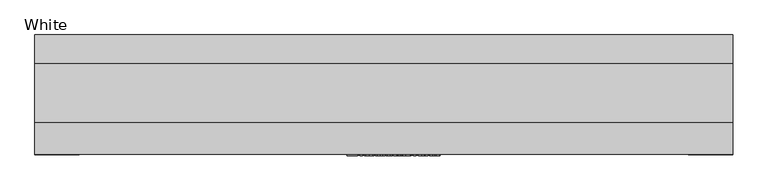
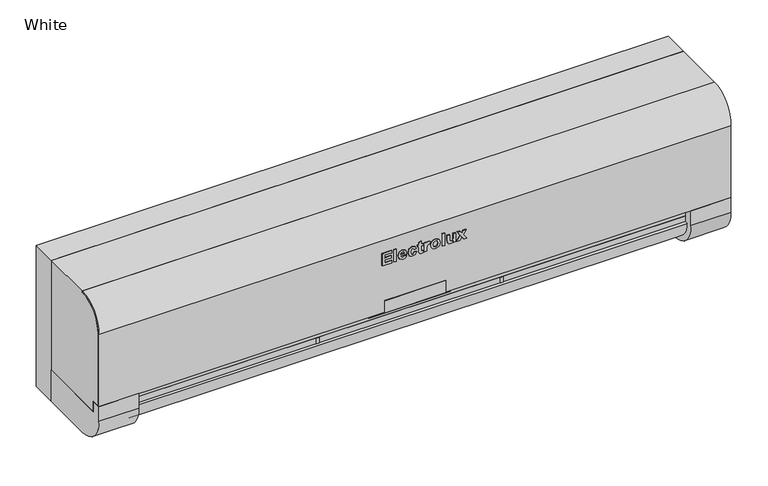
"""IFC4 building model written with IfcOpenShell, lengths in millimetres: proxy geometry, Кондиционер_world_of_REVIT : White."""

from ifc_helpers import new_model, si_unit, point, frame, frame_2d, origin, place, context, project, spatial, polyline, circle_curve, trimmed, segment, composite_curve, outline, extrude, source, transform, mapped, element, save
from ifc_brep_helpers import plane_surface, cylinder_surface, advanced_brep


def white_0b40f84a(model_context):
    return source(origin(), model_context, "Body", "SolidModel", [
        extrude(outline(composite_curve([segment(polyline([(-156.1791575, 2242.9342407), (-156.1791575, 2252.456132), (-82.9717547, 2252.456132), (-82.9717547, 2206.7187838), (-124.6196044, 2206.7187838)]), True, "CONTINUOUS"), segment(trimmed(circle_curve(frame_2d((-124.6196044, 2242.9342407)), 36.2154568), [point((-124.6196044, 2206.7187838))], [point((-160.8350613, 2242.9342407))], False, "CARTESIAN"), True, "CONTINUOUS"), segment(polyline([(-160.8350613, 2242.9342407), (-156.1791575, 2242.9342407)]), True, "CONTINUOUS")], self_intersect=False)), frame((-436.7383279, 0.0, 0.0), z_axis=(1.0, 0.0, 0.0), x_axis=(0.0, 1.0, 0.0)), (0.0, 0.0, 1.0), 873.4766558),
        extrude(outline(composite_curve([segment(polyline([(-171.2689312, 2245.269321), (-171.2689312, 2270.0153894), (-156.1791575, 2270.0153894), (-156.1791575, 2252.456132), (-40.7423889, 2252.456132), (-40.7423889, 2200.0), (-125.9996102, 2200.0)]), True, "CONTINUOUS"), segment(trimmed(circle_curve(frame_2d((-125.9996102, 2245.269321)), 45.269321), [point((-125.9996102, 2200.0))], [point((-171.2689312, 2245.269321))], False, "CARTESIAN"), True, "CONTINUOUS")], self_intersect=False)), frame((-499.9999955, 0.0, 0.0), z_axis=(1.0, 0.0, 0.0), x_axis=(0.0, 1.0, 0.0)), (0.0, 0.0, 1.0), 63.2616676),
        extrude(outline(composite_curve([segment(polyline([(-171.2689312, 2245.269321), (-171.2689312, 2270.0153894), (-156.1791575, 2270.0153894), (-156.1791575, 2252.456132), (-40.7423889, 2252.456132), (-40.7423889, 2200.0), (-125.9996102, 2200.0)]), True, "CONTINUOUS"), segment(trimmed(circle_curve(frame_2d((-125.9996102, 2245.269321)), 45.269321), [point((-125.9996102, 2200.0))], [point((-171.2689312, 2245.269321))], False, "CARTESIAN"), True, "CONTINUOUS")], self_intersect=False)), frame((436.7383279, 0.0, 0.0), z_axis=(1.0, 0.0, 0.0), x_axis=(0.0, 1.0, 0.0)), (0.0, 0.0, 1.0), 63.2616766),
        extrude(outline(composite_curve([segment(polyline([(-169.0054652, 2390.885637), (-169.0054652, 2270.0153894), (-171.2689312, 2270.0153894), (-171.2689312, 2390.885637)]), True, "CONTINUOUS"), segment(trimmed(circle_curve(frame_2d((-125.9996102, 2390.885637)), 45.269321), [point((-171.2689312, 2390.885637))], [point((-125.9996102, 2436.154958))], False, "CARTESIAN"), True, "CONTINUOUS"), segment(polyline([(-125.9996102, 2436.154958), (-125.9996102, 2433.891492)]), True, "CONTINUOUS"), segment(trimmed(circle_curve(frame_2d((-125.9996102, 2390.885637)), 43.005855), [point((-125.9996102, 2433.891492))], [point((-169.0054652, 2390.885637))], True, "CARTESIAN"), True, "CONTINUOUS")], self_intersect=False)), frame((-499.9999955, 0.0, 0.0), z_axis=(1.0, 0.0, 0.0), x_axis=(0.0, 1.0, 0.0)), (0.0, 0.0, 1.0), 1000.0),
        extrude(outline(polyline([(500.0000045, 0.0), (500.0000045, -40.7423889), (-499.9999955, -40.7423889), (-499.9999955, 0.0), (500.0000045, 0.0)])), frame((0.0, 0.0, 2200.0), z_axis=(0.0, 0.0, 1.0), x_axis=(1.0, 0.0, 0.0)), (0.0, 0.0, 1.0), 236.154958),
        extrude(outline(composite_curve([segment(trimmed(circle_curve(frame_2d((2262.1627686, 101.5576903)), 3.5), [point((2262.1627686, 98.0576903))], [point((2262.1627686, 105.0576903))], False, "CARTESIAN"), True, "CONTINUOUS"), segment(trimmed(circle_curve(frame_2d((2262.1627686, 101.5576903)), 3.5), [point((2262.1627686, 105.0576903))], [point((2262.1627686, 98.0576903))], False, "CARTESIAN"), True, "CONTINUOUS")], self_intersect=False)), frame((0.0, -156.9791575, 0.0), z_axis=(0.0, 1.0, 0.0), x_axis=(0.0, 0.0, 1.0)), (0.0, 0.0, 1.0), 0.8),
        extrude(outline(polyline([(-143.3159738, -156.9791575), (-147.8429114, -156.9791575), (-147.8429114, -156.1791575), (-143.3159738, -156.1791575), (-143.3159738, -156.9791575)])), frame((0.0, 0.0, 2242.9342407), z_axis=(0.0, 0.0, 1.0), x_axis=(1.0, 0.0, 0.0)), (0.0, 0.0, 1.0), 9.5218913),
        extrude(outline(polyline([(147.8429114, -156.9791575), (143.3159738, -156.9791575), (143.3159738, -156.1791575), (147.8429114, -156.1791575), (147.8429114, -156.9791575)])), frame((0.0, 0.0, 2242.9342407), z_axis=(0.0, 0.0, 1.0), x_axis=(1.0, 0.0, 0.0)), (0.0, 0.0, 1.0), 9.5218913),
        advanced_brep(
        [(500.0000045, -156.1791575, 2252.456132), (500.0000045, -40.7423889, 2252.456132), (500.0000045, -40.7423889, 2436.154958), (500.0000045, -125.9996102, 2436.154958), (500.0000045, -125.9996102, 2433.891492), (500.0000045, -169.0054652, 2390.885637), (500.0000045, -169.0054652, 2270.0153894), (500.0000045, -156.1791575, 2270.0153894), (-499.9999955, -156.1791575, 2252.456132), (-499.9999955, -156.1791575, 2270.0153894), (-499.9999955, -169.0054652, 2270.0153894), (-499.9999955, -169.0054652, 2390.885637), (-499.9999955, -125.9996102, 2433.891492), (-499.9999955, -125.9996102, 2436.154958), (-499.9999955, -40.7423889, 2436.154958), (-499.9999955, -40.7423889, 2252.456132), (-64.6063165, -156.1791575, 2268.0361982), (64.6063165, -156.1791575, 2268.0361982), (64.6063165, -156.1791575, 2256.2285754), (-64.6063165, -156.1791575, 2256.2285754), (64.6063165, -153.9156915, 2268.0361982), (-64.6063165, -153.9156915, 2268.0361982), (-64.6063165, -153.9156915, 2256.2285754), (64.6063165, -153.9156915, 2256.2285754)],
        [
            (0, 1),
            (1, 2),
            (2, 3),
            (3, 4),
            (4, 5, circle_curve(frame((500.0000045, -125.9996102, 2390.885637), z_axis=(1.0, 0.0, 0.0), x_axis=(0.0, 1.0, 0.0)), 43.005855)),
            (5, 6),
            (6, 7),
            (7, 0),
            (8, 9),
            (9, 10),
            (10, 11),
            (11, 12, circle_curve(frame((-499.9999955, -125.9996102, 2390.885637), z_axis=(-1.0, 0.0, 0.0), x_axis=(0.0, 1.0, 0.0)), 43.005855)),
            (12, 13),
            (13, 14),
            (14, 15),
            (15, 8),
            (0, 8),
            (15, 1),
            (14, 2),
            (13, 3),
            (12, 4),
            (11, 5),
            (10, 6),
            (9, 7),
            (16, 17),
            (17, 18),
            (18, 19),
            (19, 16),
            (20, 21),
            (21, 22),
            (22, 23),
            (23, 20),
            (20, 17),
            (16, 21),
            (19, 22),
            (18, 23),
        ],
        [
            plane_surface(frame((500.0000045, -40.7423889, 2252.456132), z_axis=(1.0, 0.0, 0.0), x_axis=(0.0, 1.0, 0.0))),
            plane_surface(frame((-499.9999955, -40.7423889, 2252.456132), z_axis=(-1.0, 0.0, 0.0), x_axis=(0.0, -1.0, 0.0))),
            plane_surface(frame((500.0000045, -156.1791575, 2252.456132), z_axis=(0.0, 0.0, -1.0), x_axis=(-1.0, 0.0, 0.0))),
            plane_surface(frame((500.0000045, -40.7423889, 2252.456132), z_axis=(0.0, 1.0, 0.0), x_axis=(-1.0, 0.0, 0.0))),
            plane_surface(frame((500.0000045, -40.7423889, 2436.154958), z_axis=(0.0, 0.0, 1.0), x_axis=(-1.0, 0.0, 0.0))),
            plane_surface(frame((500.0000045, -125.9996102, 2436.154958), z_axis=(0.0, -1.0, 0.0), x_axis=(-1.0, 0.0, 0.0))),
            cylinder_surface(frame((-499.9999955, -125.9996102, 2390.885637), z_axis=(1.0, 0.0, 0.0), x_axis=(0.0, 1.0, 0.0)), 43.005855),
            plane_surface(frame((500.0000045, -169.0054652, 2390.885637), z_axis=(0.0, -1.0, 0.0), x_axis=(-1.0, 0.0, 0.0))),
            plane_surface(frame((500.0000045, -169.0054652, 2270.0153894), z_axis=(0.0, 0.0, -1.0), x_axis=(-1.0, 0.0, 0.0))),
            plane_surface(frame((500.0000045, -156.1791575, 2270.0153894), z_axis=(0.0, -1.0, 0.0), x_axis=(-1.0, 0.0, 0.0))),
            plane_surface(frame((-64.6063165, -153.9156915, 2268.0361982), z_axis=(0.0, -1.0, 0.0), x_axis=(1.0, 0.0, 0.0))),
            plane_surface(frame((64.6063165, -156.1791575, 2268.0361982), z_axis=(0.0, 0.0, -1.0), x_axis=(0.0, 1.0, 0.0))),
            plane_surface(frame((-64.6063165, -156.1791575, 2268.0361982), z_axis=(1.0, 0.0, 0.0), x_axis=(0.0, 1.0, 0.0))),
            plane_surface(frame((-64.6063165, -156.1791575, 2256.2285754), z_axis=(0.0, 0.0, 1.0), x_axis=(0.0, 1.0, 0.0))),
            plane_surface(frame((64.6063165, -156.1791575, 2256.2285754), z_axis=(-1.0, 0.0, 0.0), x_axis=(0.0, 1.0, 0.0))),
        ],
        [
            (0, [[1, 2, 3, 4, 5, 6, 7, 8]]),
            (1, [[9, 10, 11, 12, 13, 14, 15, 16]]),
            (2, [[-1, 17, -16, 18]]),
            (3, [[-2, -18, -15, 19]]),
            (4, [[-3, -19, -14, 20]]),
            (5, [[-4, -20, -13, 21]]),
            (6, [[-5, -21, -12, 22]]),
            (7, [[-6, -22, -11, 23]]),
            (8, [[-7, -23, -10, 24]]),
            (9, [[-8, -24, -9, -17], [25, 26, 27, 28]]),
            (10, [[29, 30, 31, 32]]),
            (11, [[-29, 33, -25, 34]]),
            (12, [[-30, -34, -28, 35]]),
            (13, [[-31, -35, -27, 36]]),
            (14, [[-32, -36, -26, -33]]),
        ],
    ),
        extrude(outline(polyline([(2350.0916208, -52.923932), (2350.0916208, -37.3771221), (2353.6544314, -37.3771221), (2353.6544314, -49.0372296), (2358.8367014, -49.0372296), (2358.8367014, -38.3487978), (2362.399512, -38.3487978), (2362.399512, -49.0372296), (2366.9339982, -49.0372296), (2366.9339982, -37.701014), (2370.4968088, -37.701014), (2370.4968088, -52.923932), (2350.0916208, -52.923932)])), frame((0.0, -172.8689312, 0.0), z_axis=(0.0, 1.0, 0.0), x_axis=(0.0, 0.0, 1.0)), (0.0, 0.0, 1.0), 1.6),
        extrude(outline(polyline([(-30.2515009, -172.8689312), (-34.1382034, -172.8689312), (-34.1382034, -171.2689312), (-30.2515009, -171.2689312), (-30.2515009, -172.8689312)])), frame((0.0, 0.0, 2350.0916208), z_axis=(0.0, 0.0, 1.0), x_axis=(1.0, 0.0, 0.0)), (0.0, 0.0, 1.0), 20.405188),
        extrude(outline(polyline([(2354.6261071, -17.9436098), (2352.6827558, -20.3525556), (2353.7050395, -22.5337649), (2356.5694583, -23.4497716), (2356.5694583, -13.7330154), (2363.1636944, -15.5296031), (2365.3145389, -20.6562042), (2363.2193633, -25.4437309), (2357.4297961, -27.3364741), (2352.303195, -25.9093255), (2349.767729, -20.3373731), (2350.8431512, -16.3747585), (2353.9783233, -14.0569073), (2354.6261071, -17.9436098)]), holes=[polyline([(2358.8367014, -17.6197179), (2358.8367014, -23.3839811), (2361.4430188, -22.5742514), (2362.399512, -20.4891975), (2361.4910965, -18.4851165), (2358.8367014, -17.6197179)])]), frame((0.0, -172.8689312, 0.0), z_axis=(0.0, 1.0, 0.0), x_axis=(0.0, 0.0, 1.0)), (0.0, 0.0, 1.0), 1.6),
        extrude(outline(polyline([(2360.7800527, 1.4899026), (2364.1935693, -0.7216716), (2365.3145389, -4.8664754), (2363.2623802, -9.9222251), (2357.5259515, -11.7896642), (2351.8274788, -9.9095731), (2349.767729, -4.8664754), (2351.0759485, -0.4256142), (2354.9499989, 1.8137945), (2355.5977827, -2.072908), (2353.3381308, -3.0319316), (2352.6827558, -4.7804416), (2353.8315598, -7.0552759), (2357.7638096, -7.9029617), (2361.331681, -7.0881712), (2362.399512, -4.9019011), (2361.8301708, -3.2242424), (2360.1322689, -2.3967999), (2360.7800527, 1.4899026)])), frame((0.0, -172.8689312, 0.0), z_axis=(0.0, 1.0, 0.0), x_axis=(0.0, 0.0, 1.0)), (0.0, 0.0, 1.0), 1.6),
        extrude(outline(polyline([(2364.990647, 11.8544426), (2364.990647, 8.9394157), (2370.172917, 8.9394157), (2367.9056739, 5.0527132), (2364.990647, 5.0527132), (2364.990647, 3.109362), (2362.0756201, 3.109362), (2362.0756201, 5.0527132), (2355.4662016, 5.0527132), (2352.6372085, 5.1792335), (2351.0734181, 5.7485747), (2350.1321073, 7.0314901), (2349.767729, 8.9950846), (2350.2940533, 12.1783344), (2353.0572558, 12.0163885), (2353.4241646, 9.0279799), (2355.6838165, 8.9394157), (2362.0756201, 8.9394157), (2362.0756201, 11.8544426), (2364.990647, 11.8544426)])), frame((0.0, -172.8689312, 0.0), z_axis=(0.0, 1.0, 0.0), x_axis=(0.0, 0.0, 1.0)), (0.0, 0.0, 1.0), 1.6),
        extrude(outline(polyline([(2350.0916208, 18.0083881), (2354.5501949, 18.0083881), (2359.3883298, 18.3297496), (2361.4278364, 20.5792799), (2360.7952351, 22.3809284), (2364.4946876, 23.51455), (2365.3145389, 21.1309082), (2364.8514747, 19.562057), (2362.9157147, 18.0083881), (2364.990647, 18.0083881), (2364.990647, 14.1216857), (2350.0916208, 14.1216857), (2350.0916208, 18.0083881)])), frame((0.0, -172.8689312, 0.0), z_axis=(0.0, 1.0, 0.0), x_axis=(0.0, 0.0, 1.0)), (0.0, 0.0, 1.0), 1.6),
        extrude(outline(polyline([(2357.753688, 24.1623337), (2353.4013909, 25.1213573), (2350.6913269, 27.9199855), (2349.767729, 31.7889752), (2351.9868944, 37.2242857), (2357.5816204, 39.3852518), (2363.1232079, 37.2470593), (2365.3145389, 31.7586103), (2364.3479241, 27.8364822), (2361.5467654, 25.1213573), (2357.753688, 24.1623337)]), holes=[polyline([(2357.5411339, 28.0490362), (2361.1469614, 29.1244584), (2362.399512, 31.7788536), (2361.1469614, 34.4281879), (2357.5714988, 35.4985493), (2353.9353064, 34.4281879), (2352.6827558, 31.7788536), (2353.9353064, 29.1244584), (2357.5411339, 28.0490362)])]), frame((0.0, -172.8689312, 0.0), z_axis=(0.0, 1.0, 0.0), x_axis=(0.0, 0.0, 1.0)), (0.0, 0.0, 1.0), 1.6),
        extrude(outline(polyline([(46.1869811, -172.8689312), (42.3002786, -172.8689312), (42.3002786, -171.2689312), (46.1869811, -171.2689312), (46.1869811, -172.8689312)])), frame((0.0, 0.0, 2350.0916208), z_axis=(0.0, 0.0, 1.0), x_axis=(1.0, 0.0, 0.0)), (0.0, 0.0, 1.0), 20.405188),
        extrude(outline(polyline([(2350.0916208, 59.4665479), (2350.0916208, 63.3532504), (2364.990647, 63.3532504), (2364.990647, 59.4665479), (2358.6696947, 59.4665479), (2354.6235767, 59.1806121), (2353.239445, 58.1178419), (2354.2288334, 54.1704097), (2358.1028839, 53.960386), (2364.990647, 53.960386), (2364.990647, 50.0736836), (2355.5724786, 50.0736836), (2352.2753606, 50.5797646), (2350.4256343, 52.2194672), (2349.767729, 54.7751765), (2350.4382864, 57.4346325), (2352.277891, 59.4665479), (2350.0916208, 59.4665479)])), frame((0.0, -172.8689312, 0.0), z_axis=(0.0, 1.0, 0.0), x_axis=(0.0, 0.0, 1.0)), (0.0, 0.0, 1.0), 1.6),
        extrude(outline(polyline([(2350.0916208, 65.4585475), (2350.0916208, 70.0790675), (2354.70708, 72.9738511), (2350.0916208, 76.0609456), (2350.0916208, 80.6814656), (2357.9358771, 75.2815807), (2364.990647, 80.0336818), (2364.990647, 75.4131618), (2360.8964513, 72.9738511), (2364.990647, 70.7268513), (2364.990647, 66.1063313), (2357.7638096, 70.7217905), (2350.0916208, 65.4585475)])), frame((0.0, -172.8689312, 0.0), z_axis=(0.0, 1.0, 0.0), x_axis=(0.0, 0.0, 1.0)), (0.0, 0.0, 1.0), 1.6),
        extrude(outline(polyline([(48.5264809, -172.2689312), (-48.5264809, -172.2689312), (-48.5264809, -171.2689312), (48.5264809, -171.2689312), (48.5264809, -172.2689312)])), frame((0.0, 0.0, 2270.0153894), z_axis=(0.0, 0.0, 1.0), x_axis=(1.0, 0.0, 0.0)), (0.0, 0.0, 1.0), 20.0),
    ])


if __name__ == "__main__":
    model = new_model("IFC4")
    model_context = context("Model", 3, world=origin())
    ifc_project = project(units=[si_unit("LENGTHUNIT", "METRE", prefix="MILLI")], contexts=[model_context])
    site = spatial("IfcSite", under=ifc_project)
    building = spatial("IfcBuilding", under=site)
    placement = place(None, origin())
    white_shape = white_0b40f84a(model_context)
    element("IfcBuildingElementProxy", 1, Name="Кондиционер_world_of_REVIT : White", ObjectType="Кондиционер_world_of_REVIT : White", at=placement, inside=building, context=model_context, shape_type="MappedRepresentation", body=[
        mapped(white_shape, transform((0.0, 0.0, 0.0), x_axis=(1.0, 0.0, 0.0), y_axis=(0.0, 1.0, 0.0), z_axis=(0.0, 0.0, 1.0))),
    ])
    save(model, "model.ifc")
